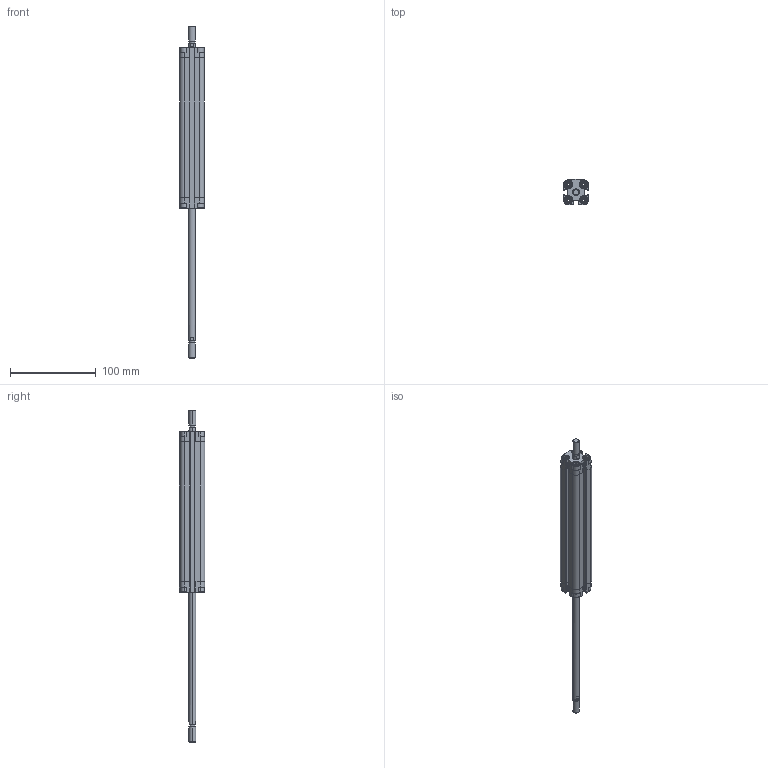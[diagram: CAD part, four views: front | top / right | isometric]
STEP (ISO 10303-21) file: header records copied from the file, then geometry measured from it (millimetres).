
FILE_DESCRIPTION (( 'STEP AP203' ), '1' );
FILE_NAME ('CDVU16-150M-P.STEP', '2020-07-21T15:05:53', ( '' ), ( '' ), 'SwSTEP 2.0', 'SolidWorks 2019', '' );
FILE_SCHEMA (( 'CONFIG_CONTROL_DESIGN' ));
Length unit declared in the file: millimetre
Products named in the file (1): CDVU16-150M-P
Bounding box: 29 x 30 x 387 mm (x, y, z)
Volume: 103622.4 mm3; surface area: 62821.9 mm2
Topology: 2 solids, 2 shells, 566 faces, 1504 edges, 978 vertices
Faces by surface type: plane 338, cylinder 164, cone 48, torus 16
Entity records: 17771 total; most frequent: CARTESIAN_POINT 3621, ORIENTED_EDGE 3000, DIRECTION 2850, EDGE_CURVE 1500, VERTEX_POINT 978, AXIS2_PLACEMENT_3D 975, LINE 900, VECTOR 900
